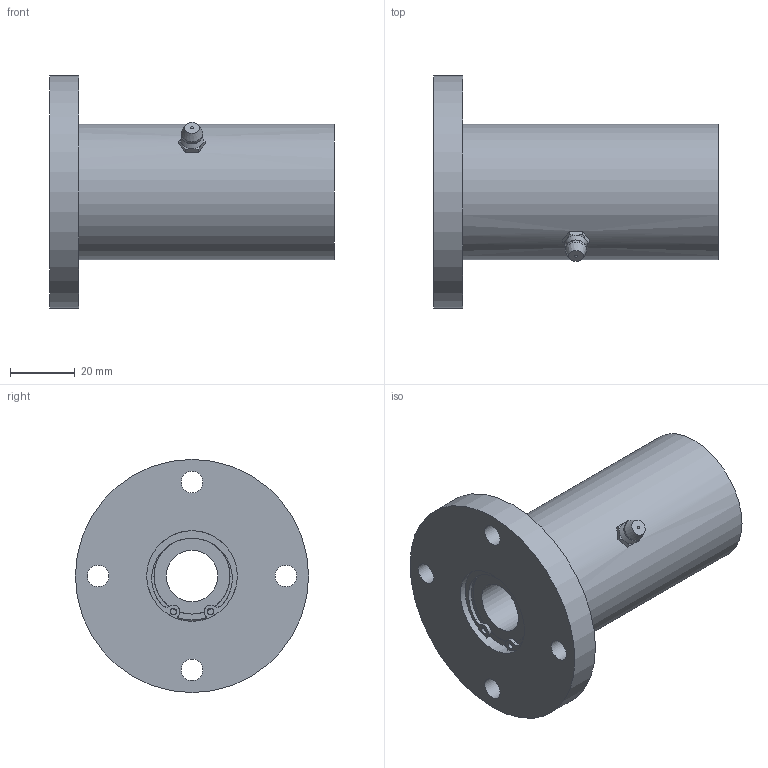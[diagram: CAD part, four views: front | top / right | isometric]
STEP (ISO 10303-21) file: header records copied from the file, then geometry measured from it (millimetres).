
FILE_DESCRIPTION((''),'2;1');
FILE_NAME('D:\製品 (図面)\カタログ用3D\リニアベアリング関連(改)\STEP形式\LFW-OH\LFW16-OH.stp','2010-01-22T16:16:19',('Tsuchiya'),(''),'Autodesk Inventor 10','Autodesk Inventor 10','');
FILE_SCHEMA(('AUTOMOTIVE_DESIGN { 1 0 10303 214 1 1 1 1 }'));
Length unit declared in the file: millimetre
Products named in the file (1): LFW16-OH
Bounding box: 88 x 72 x 72 mm (x, y, z)
Volume: 124463 mm3; surface area: 28839.3 mm2
Topology: 1 solids, 7 shells, 105 faces, 244 edges, 152 vertices
Faces by surface type: bspline 36, plane 31, cylinder 27, cone 7, sphere 2, torus 2
Full cylindrical faces by diameter (mm): 2 x2, 6.647 x4, 16 x2, 23.5 x2, 26.6 x2, 28 x8, 42 x1, 72 x1
Entity records: 3077 total; most frequent: CARTESIAN_POINT 926, DIRECTION 452, ORIENTED_EDGE 372, AXIS2_PLACEMENT_3D 208, EDGE_CURVE 186, EDGE_LOOP 178, VERTEX_POINT 134, CIRCLE 134
